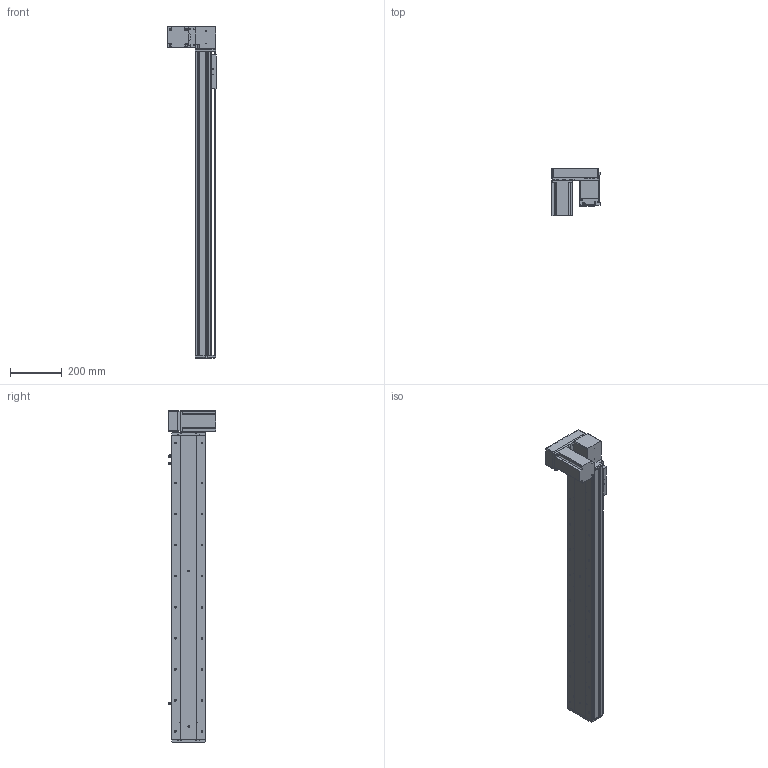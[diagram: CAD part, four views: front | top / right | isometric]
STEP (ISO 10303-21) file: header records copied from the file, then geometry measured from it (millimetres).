
FILE_DESCRIPTION (( 'STEP AP214' ), '1' );
FILE_NAME ('KSD130B-S950-MRD-CM.STEP', '2019-11-15T08:51:05', ( '微软用户' ), ( '微软中国' ), 'SwSTEP 2.0', 'SolidWorks 2014', '' );
FILE_SCHEMA (( 'AUTOMOTIVE_DESIGN' ));
Length unit declared in the file: millimetre
Products named in the file (12): 130宽模组保护罩上下左右折-同步带; 台达ECMA－C20807AS伺服电机; 130宽模组马达安装板连板上下折丝杆同步带; 覜茼え100遵圉猾敕; U倰嫖萇EEㄜSX672; 130宽盖板半封闭同步带-950行程; 130宽马达安装板同步带右-改镜向_默认<按加工>; 130宽马达安装板同步带半封闭; 130宽同步带安装座半封闭; 130宽端盖同步带半封闭; 130宽底板半封闭同步带-950行程; KSD130B-S950-MRD-CM
Assembly tree (13 placements, depth 2):
  KSD130B-S950-MRD-CM
    130宽底板半封闭同步带-950行程
    130宽端盖同步带半封闭
    130宽同步带安装座半封闭
    130宽马达安装板同步带半封闭
    130宽马达安装板同步带右-改镜向_默认<按加工>
    130宽盖板半封闭同步带-950行程
    U倰嫖萇EEㄜSX672  x3
    覜茼え100遵圉猾敕
    130宽模组马达安装板连板上下折丝杆同步带
    台达ECMA－C20807AS伺服电机
    130宽模组保护罩上下左右折-同步带
Bounding box: 186 x 184.8 x 1283 mm (x, y, z)
Volume: 4831637 mm3; surface area: 1314941.7 mm2
Topology: 14 solids, 14 shells, 1517 faces, 4325 edges, 2761 vertices
Faces by surface type: cylinder 724, plane 622, cone 171
Entity records: 49727 total; most frequent: CARTESIAN_POINT 9178, DIRECTION 7583, ORIENTED_EDGE 7294, EDGE_CURVE 3647, AXIS2_PLACEMENT_3D 2766, VERTEX_POINT 2385, VECTOR 2051, LINE 2051
